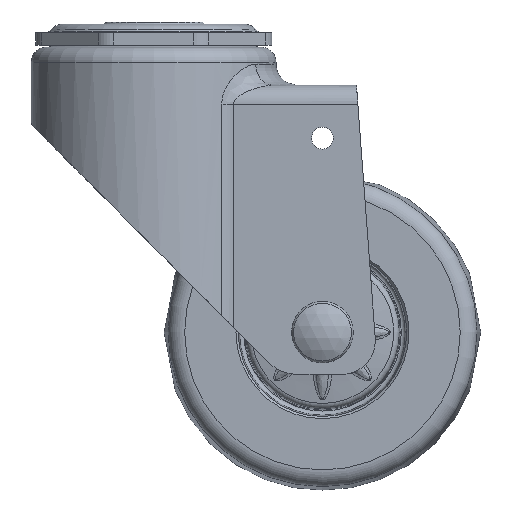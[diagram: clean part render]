
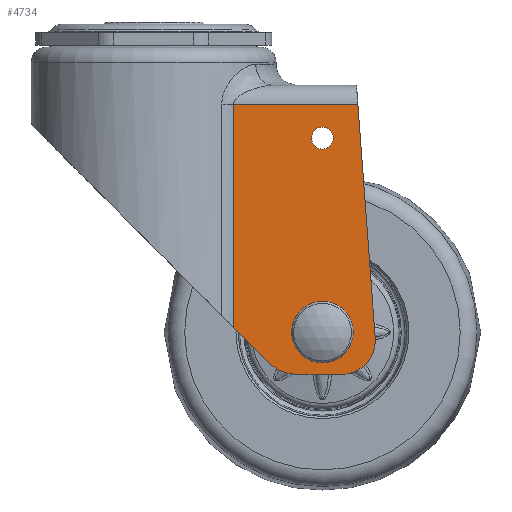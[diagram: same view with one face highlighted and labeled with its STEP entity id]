
A CAD part, front view. The second image highlights one B-rep face of the part: STEP entity #4734.
In plain terms, the highlighted planar face has unit normal (0, -1, 0).
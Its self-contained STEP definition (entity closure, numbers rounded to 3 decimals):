
#263=FACE_BOUND('',#997,.T.);
#264=FACE_BOUND('',#998,.T.);
#376=PLANE('',#5408);
#653=FACE_OUTER_BOUND('',#996,.T.);
#996=EDGE_LOOP('',(#4250,#4251,#4252,#4253,#4254,#4255,#4256));
#997=EDGE_LOOP('',(#4257,#4258,#4259,#4260,#4261,#4262));
#998=EDGE_LOOP('',(#4263));
#1313=CIRCLE('',#5366,2.6);
#1324=CIRCLE('',#5386,8.);
#1336=CIRCLE('',#5407,10.);
#1337=CIRCLE('',#5409,1.5);
#1338=CIRCLE('',#5410,1.);
#1339=CIRCLE('',#5411,4.1);
#1340=CIRCLE('',#5412,1.);
#1653=LINE('',#14063,#1854);
#1673=LINE('',#14132,#1874);
#1675=LINE('',#14141,#1876);
#1676=LINE('',#14142,#1877);
#1677=LINE('',#14143,#1878);
#1678=LINE('',#14148,#1879);
#1679=LINE('',#14155,#1880);
#1854=VECTOR('',#6653,55.56);
#1874=VECTOR('',#6715,11.55);
#1876=VECTOR('',#6727,29.469);
#1877=VECTOR('',#6728,52.87);
#1878=VECTOR('',#6729,10.371);
#1879=VECTOR('',#6732,1.055);
#1880=VECTOR('',#6739,1.055);
#2266=VERTEX_POINT('',#14009);
#2288=VERTEX_POINT('',#14060);
#2289=VERTEX_POINT('',#14062);
#2294=VERTEX_POINT('',#14074);
#2316=VERTEX_POINT('',#14129);
#2317=VERTEX_POINT('',#14131);
#2318=VERTEX_POINT('',#14136);
#2319=VERTEX_POINT('',#14140);
#2320=VERTEX_POINT('',#14144);
#2321=VERTEX_POINT('',#14145);
#2322=VERTEX_POINT('',#14147);
#2323=VERTEX_POINT('',#14149);
#2324=VERTEX_POINT('',#14151);
#2325=VERTEX_POINT('',#14153);
#2912=EDGE_CURVE('',#2266,#2266,#1313,.T.);
#2938=EDGE_CURVE('',#2288,#2289,#1653,.T.);
#2944=EDGE_CURVE('',#2289,#2294,#1324,.T.);
#2974=EDGE_CURVE('',#2317,#2316,#1673,.T.);
#2977=EDGE_CURVE('',#2318,#2316,#1336,.T.);
#2979=EDGE_CURVE('',#2319,#2288,#1675,.T.);
#2980=EDGE_CURVE('',#2317,#2319,#1676,.T.);
#2981=EDGE_CURVE('',#2318,#2294,#1677,.T.);
#2982=EDGE_CURVE('',#2320,#2321,#1337,.T.);
#2983=EDGE_CURVE('',#2321,#2322,#1678,.T.);
#2984=EDGE_CURVE('',#2322,#2323,#1338,.T.);
#2985=EDGE_CURVE('',#2323,#2324,#1339,.T.);
#2986=EDGE_CURVE('',#2324,#2325,#1340,.T.);
#2987=EDGE_CURVE('',#2325,#2320,#1679,.T.);
#4250=ORIENTED_EDGE('',*,*,#2944,.F.);
#4251=ORIENTED_EDGE('',*,*,#2938,.F.);
#4252=ORIENTED_EDGE('',*,*,#2979,.F.);
#4253=ORIENTED_EDGE('',*,*,#2980,.F.);
#4254=ORIENTED_EDGE('',*,*,#2974,.T.);
#4255=ORIENTED_EDGE('',*,*,#2977,.F.);
#4256=ORIENTED_EDGE('',*,*,#2981,.T.);
#4257=ORIENTED_EDGE('',*,*,#2982,.T.);
#4258=ORIENTED_EDGE('',*,*,#2983,.T.);
#4259=ORIENTED_EDGE('',*,*,#2984,.T.);
#4260=ORIENTED_EDGE('',*,*,#2985,.T.);
#4261=ORIENTED_EDGE('',*,*,#2986,.T.);
#4262=ORIENTED_EDGE('',*,*,#2987,.T.);
#4263=ORIENTED_EDGE('',*,*,#2912,.T.);
#4734=ADVANCED_FACE('',(#653,#263,#264),#376,.F.);
#5366=AXIS2_PLACEMENT_3D('',#14010,#6606,#6607);
#5386=AXIS2_PLACEMENT_3D('',#14075,#6663,#6664);
#5407=AXIS2_PLACEMENT_3D('',#14137,#6722,#6723);
#5408=AXIS2_PLACEMENT_3D('',#14139,#6725,#6726);
#5409=AXIS2_PLACEMENT_3D('',#14146,#6730,#6731);
#5410=AXIS2_PLACEMENT_3D('',#14150,#6733,#6734);
#5411=AXIS2_PLACEMENT_3D('',#14152,#6735,#6736);
#5412=AXIS2_PLACEMENT_3D('',#14154,#6737,#6738);
#6606=DIRECTION('center_axis',(0.,1.,0.));
#6607=DIRECTION('ref_axis',(1.,0.,0.));
#6653=DIRECTION('',(0.074,0.,-0.997));
#6663=DIRECTION('center_axis',(0.,1.,0.));
#6664=DIRECTION('ref_axis',(0.733,0.,-0.68));
#6715=DIRECTION('',(0.706,0.,-0.709));
#6722=DIRECTION('center_axis',(0.,1.,0.));
#6723=DIRECTION('ref_axis',(-0.384,0.,-0.923));
#6725=DIRECTION('center_axis',(0.,1.,0.));
#6726=DIRECTION('ref_axis',(0.,0.,1.));
#6727=DIRECTION('',(1.,0.,0.));
#6728=DIRECTION('',(0.,0.,1.));
#6729=DIRECTION('',(1.,0.,0.));
#6730=DIRECTION('center_axis',(0.,1.,0.));
#6731=DIRECTION('ref_axis',(1.,0.,0.));
#6732=DIRECTION('',(0.,0.,1.));
#6733=DIRECTION('center_axis',(0.,-1.,0.));
#6734=DIRECTION('ref_axis',(1.,0.,0.));
#6735=DIRECTION('center_axis',(0.,1.,0.));
#6736=DIRECTION('ref_axis',(1.,0.,0.));
#6737=DIRECTION('center_axis',(0.,-1.,0.));
#6738=DIRECTION('ref_axis',(1.,0.,0.));
#6739=DIRECTION('',(0.,0.,-1.));
#14009=CARTESIAN_POINT('',(37.4,-23.25,-47.5));
#14010=CARTESIAN_POINT('Origin',(40.,-23.25,-47.5));
#14060=CARTESIAN_POINT('',(48.388,-23.25,-39.5));
#14062=CARTESIAN_POINT('',(52.504,-23.25,-94.907));
#14063=CARTESIAN_POINT('',(48.388,-23.25,-39.5));
#14074=CARTESIAN_POINT('',(44.526,-23.25,-103.5));
#14075=CARTESIAN_POINT('Origin',(44.526,-23.25,-95.5));
#14129=CARTESIAN_POINT('',(27.068,-23.25,-100.555));
#14131=CARTESIAN_POINT('',(18.919,-23.25,-92.37));
#14132=CARTESIAN_POINT('',(18.919,-23.25,-92.37));
#14136=CARTESIAN_POINT('',(34.155,-23.25,-103.5));
#14137=CARTESIAN_POINT('Origin',(34.155,-23.25,-93.5));
#14139=CARTESIAN_POINT('Origin',(25.828,-23.25,-82.868));
#14140=CARTESIAN_POINT('',(18.919,-23.25,-39.5));
#14141=CARTESIAN_POINT('',(18.919,-23.25,-39.5));
#14142=CARTESIAN_POINT('',(18.919,-23.25,-92.37));
#14143=CARTESIAN_POINT('',(34.155,-23.25,-103.5));
#14144=CARTESIAN_POINT('',(41.5,-23.25,-99.));
#14145=CARTESIAN_POINT('',(38.5,-23.25,-99.));
#14146=CARTESIAN_POINT('Origin',(40.,-23.25,-99.));
#14147=CARTESIAN_POINT('',(38.5,-23.25,-97.945));
#14148=CARTESIAN_POINT('',(38.5,-23.25,-99.));
#14149=CARTESIAN_POINT('',(37.99,-23.25,-97.073));
#14150=CARTESIAN_POINT('Origin',(37.5,-23.25,-97.945));
#14151=CARTESIAN_POINT('',(42.01,-23.25,-97.073));
#14152=CARTESIAN_POINT('Origin',(40.,-23.25,-93.5));
#14153=CARTESIAN_POINT('',(41.5,-23.25,-97.945));
#14154=CARTESIAN_POINT('Origin',(42.5,-23.25,-97.945));
#14155=CARTESIAN_POINT('',(41.5,-23.25,-97.945));
